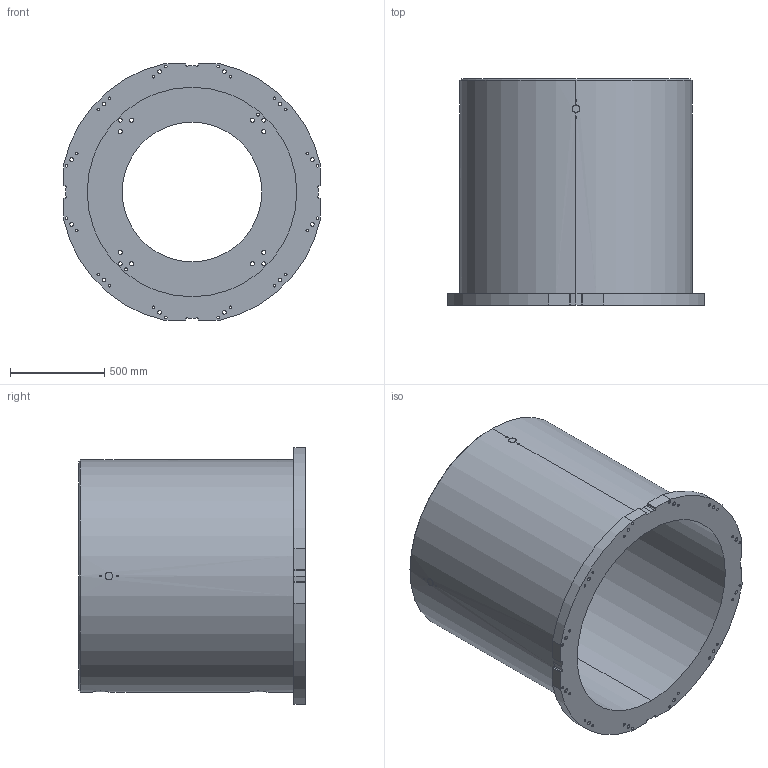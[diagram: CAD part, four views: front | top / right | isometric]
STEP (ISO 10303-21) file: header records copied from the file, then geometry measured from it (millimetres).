
FILE_DESCRIPTION (( 'STEP AP214' ), '1' );
FILE_NAME ('T-1200.STEP', '2024-01-24T12:52:24', ( '' ), ( '' ), 'SwSTEP 2.0', 'SolidWorks 2022', '' );
FILE_SCHEMA (( 'AUTOMOTIVE_DESIGN' ));
Length unit declared in the file: millimetre
Products named in the file (1): T-1200
Bounding box: 1360 x 1200 x 1360 mm (x, y, z)
Volume: 312758807.5 mm3; surface area: 11055235.7 mm2
Topology: 1 solids, 1 shells, 235 faces, 661 edges, 440 vertices
Faces by surface type: cylinder 181, plane 28, bspline 24, cone 2
Entity records: 13615 total; most frequent: CARTESIAN_POINT 6304, ORIENTED_EDGE 1322, DIRECTION 1177, EDGE_CURVE 661, AXIS2_PLACEMENT_3D 466, VERTEX_POINT 440, EDGE_LOOP 349, CIRCLE 254
